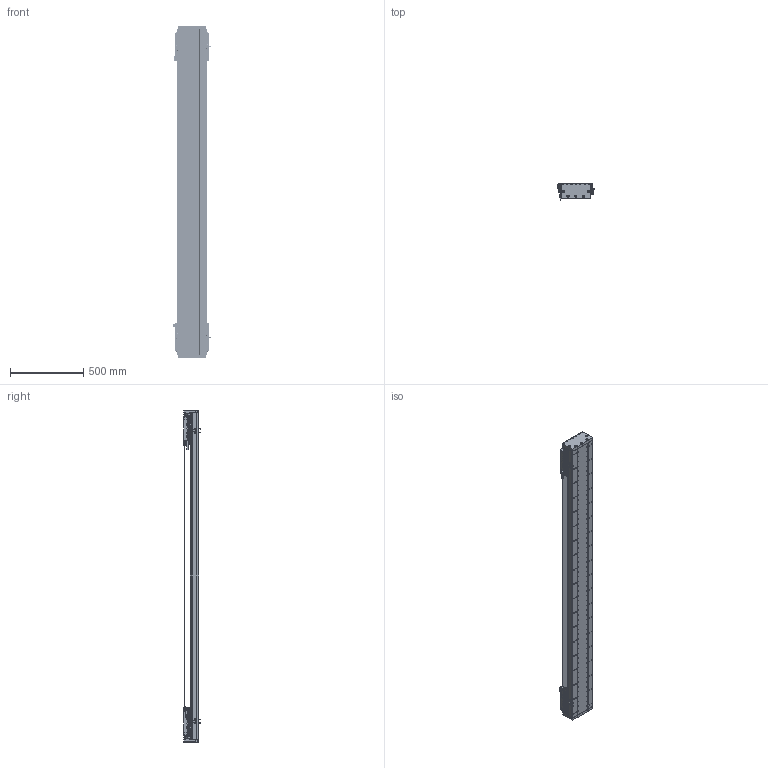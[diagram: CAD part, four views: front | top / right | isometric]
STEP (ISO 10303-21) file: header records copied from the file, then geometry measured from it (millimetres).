
FILE_DESCRIPTION (( 'STEP AP203' ), '1' );
FILE_NAME ('DA-C195-2-C2-T1760-C010-0.2 眻盄萇儂.STEP', '2025-08-14T02:07:25', ( '' ), ( '' ), 'SwSTEP 2.0', 'SolidWorks 2019', '' );
FILE_SCHEMA (( 'CONFIG_CONTROL_DESIGN' ));
Length unit declared in the file: millimetre
Products named in the file (19): DA195詩湍菜輸-1; IU-CU195-L-00 菁釱(L2220); IU-CU195-L 菁釱絳寢-1; DA95-HXJ-00 遣喳砎蝶-1; DA-C195-2-C2-T1760-C010-0.2 眻盄萇儂; 葩璃 DA95-GT-T-00-1; DA195詩湍嶺輸-1; PM-T45ㄗ侂狟ㄘ-1; CU195-C2賑輸-俋楷-1; LMT黍杅芛-1; DKW-GYP-ZJ-00 笢潔嫖萇覜茼え-1; DKW168-HXJ-ZJ-00 笢潔滅袉砎蝶-1; MS200 棠掑喜S315-T1740-1; DA195詩湍郪璃-1; DA195詩湍裔啣-1; DA-C195-GD-DB-H-00 傷啣-1; DA165-GYP-00 光电感应片(默认)-1; PM-Y65嫖萇羲壽郪璃-1; DKW-KGZ-ZJ-00 中间光电开关支架-1
Assembly tree (37 placements, depth 3):
  DA-C195-2-C2-T1760-C010-0.2 眻盄萇儂
    DA195詩湍郪璃-1
      DA195詩湍菜輸-1  x2
      DA195詩湍裔啣-1
      DA195詩湍嶺輸-1  x2
      DA95-HXJ-00 遣喳砎蝶-1  x8
      DA-C195-GD-DB-H-00 傷啣-1  x2
    IU-CU195-L 菁釱絳寢-1
      IU-CU195-L-00 菁釱(L2220)
      葩璃 DA95-GT-T-00-1  x4
    LMT黍杅芛-1  x2
    MS200 棠掑喜S315-T1740-1
    PM-T45ㄗ侂狟ㄘ-1  x4
    DA165-GYP-00 光电感应片(默认)-1  x2
    PM-Y65嫖萇羲壽郪璃-1
    DKW168-HXJ-ZJ-00 笢潔滅袉砎蝶-1
    DKW-GYP-ZJ-00 笢潔嫖萇覜茼え-1
    DKW-KGZ-ZJ-00 中间光电开关支架-1
    CU195-C2賑輸-俋楷-1  x2
Bounding box: 258.2 x 115.45 x 2260 mm (x, y, z)
Volume: 14445464.7 mm3; surface area: 4160603.4 mm2
Topology: 114 solids, 242 shells, 6867 faces, 18047 edges, 11201 vertices
Faces by surface type: cylinder 3164, plane 2619, cone 916, torus 88, sphere 72, bspline 8
Entity records: 143729 total; most frequent: CARTESIAN_POINT 37599, ORIENTED_EDGE 21926, DIRECTION 21274, EDGE_CURVE 10963, AXIS2_PLACEMENT_3D 7821, VERTEX_POINT 7088, VECTOR 5632, LINE 5632
